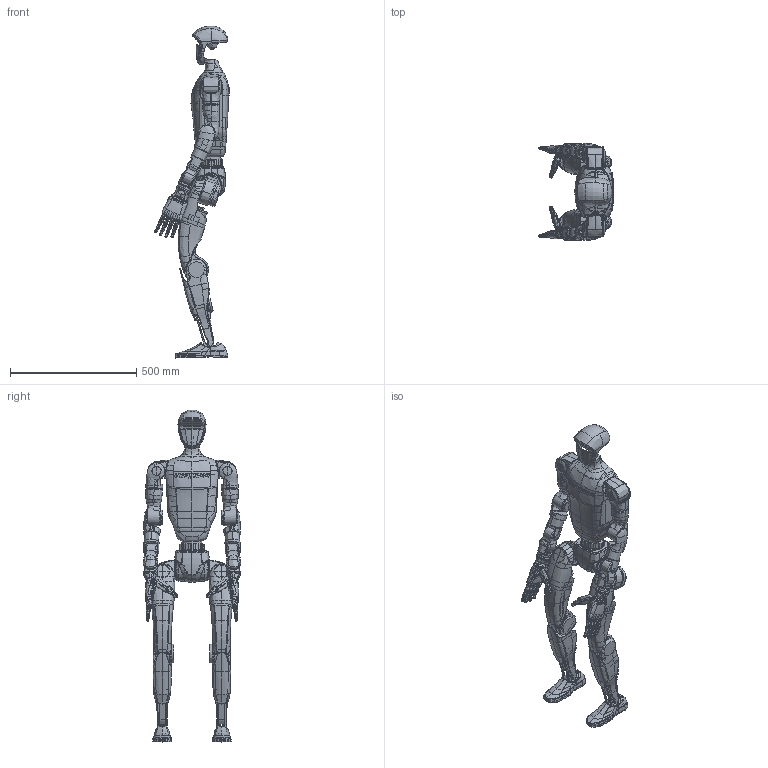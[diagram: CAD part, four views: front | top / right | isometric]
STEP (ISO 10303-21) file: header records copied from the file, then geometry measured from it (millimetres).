
FILE_DESCRIPTION(/* description */ (''),/* implementation_level */ '2;1');
FILE_NAME(/* name */ 'G1EDU~3',/* time_stamp */ '2024-08-14T14:11:07+08:00',/* author */ (''),/* organization */ (''),/* preprocessor_version */ 'ST-DEVELOPER v16.5',/* originating_system */ '',/* authorisation */ '');
FILE_SCHEMA (('CONFIG_CONTROL_DESIGN'));
Products named in the file (1): Document
Bounding box: 295.98 x 385.7 x 1314.43 mm (x, y, z)
Topology: 83 solids, 105 shells, 15821 faces, 40934 edges, 24977 vertices
Faces by surface type: bspline 11042, plane 2507, cylinder 2272
Entity records: 1440848 total; most frequent: CARTESIAN_POINT 1190989, ORIENTED_EDGE 81152, EDGE_CURVE 40674, B_SPLINE_CURVE_WITH_KNOTS 33489, VERTEX_POINT 24967, EDGE_LOOP 16107, ADVANCED_FACE 15807, FACE_OUTER_BOUND 15807
